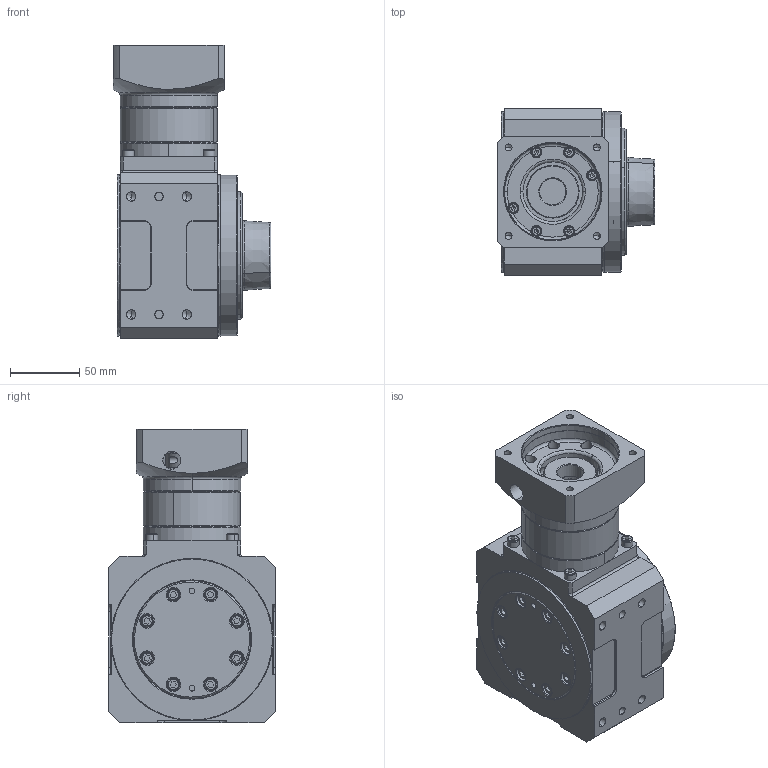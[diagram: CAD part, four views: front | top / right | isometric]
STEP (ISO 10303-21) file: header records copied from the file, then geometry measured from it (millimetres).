
FILE_DESCRIPTION (( 'STEP AP214' ), '1' );
FILE_NAME ('PR120-17.5-PGV謫晚熬厒ん.STEP', '2022-10-21T04:16:23', ( '' ), ( '' ), 'SwSTEP 2.0', 'SolidWorks 2020', '' );
FILE_SCHEMA (( 'AUTOMOTIVE_DESIGN' ));
Length unit declared in the file: millimetre
Products named in the file (1): PR120-17.5-PGV謫晚熬厒ん
Bounding box: 113.5 x 120 x 211.5 mm (x, y, z)
Volume: 1567071 mm3; surface area: 134517.4 mm2
Topology: 1 solids, 22 shells, 994 faces, 2343 edges, 1410 vertices
Faces by surface type: plane 437, cylinder 313, cone 138, torus 94, bspline 12
Entity records: 39459 total; most frequent: CARTESIAN_POINT 5745, DIRECTION 5201, ORIENTED_EDGE 4526, EDGE_CURVE 2263, AXIS2_PLACEMENT_3D 2018, VERTEX_POINT 1410, LINE 1165, VECTOR 1165
